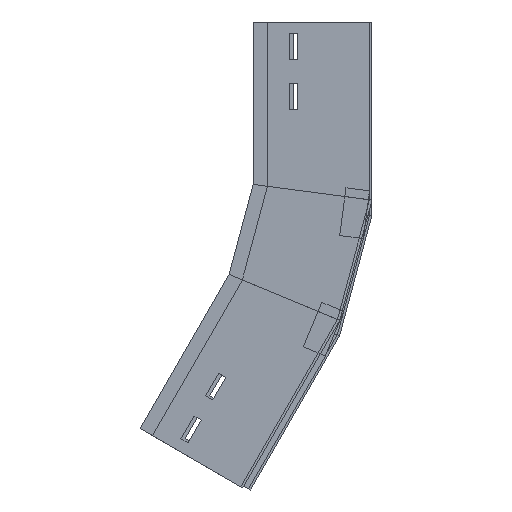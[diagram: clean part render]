
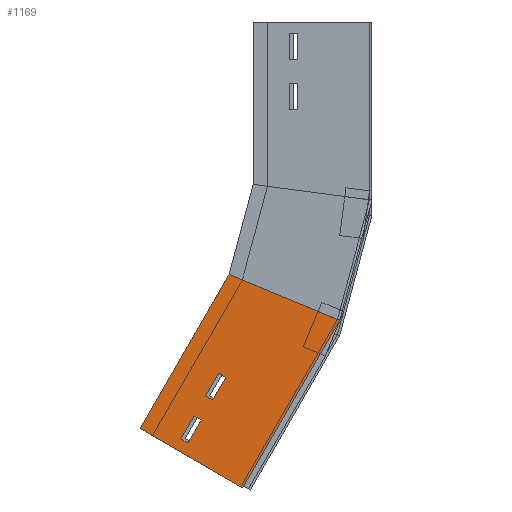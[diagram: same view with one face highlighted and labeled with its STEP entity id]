
A CAD part, left-side view. The second image highlights one B-rep face of the part: STEP entity #1169.
In plain terms, the highlighted planar face has unit normal (-1, 0, 0) as drawn and (1, 0, 0) by its records, which use the part's own axes.
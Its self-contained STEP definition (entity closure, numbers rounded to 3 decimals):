
#3 = EDGE_CURVE ( 'NONE', #1279, #262, #1346, .T. ) ;
#12 = CARTESIAN_POINT ( 'NONE',  ( 0., 59., -51.505 ) ) ;
#16 = EDGE_CURVE ( 'NONE', #1105, #1137, #1451, .T. ) ;
#32 = DIRECTION ( 'NONE',  ( 0., -0.991, -0.131 ) ) ;
#60 = EDGE_LOOP ( 'NONE', ( #123, #658, #385, #1473 ) ) ;
#74 = VERTEX_POINT ( 'NONE', #455 ) ;
#89 = VECTOR ( 'NONE', #1050, 1000. ) ;
#97 = ORIENTED_EDGE ( 'NONE', *, *, #1175, .T. ) ;
#123 = ORIENTED_EDGE ( 'NONE', *, *, #3, .T. ) ;
#164 = VERTEX_POINT ( 'NONE', #1460 ) ;
#170 = EDGE_CURVE ( 'NONE', #204, #1105, #448, .T. ) ;
#178 = CARTESIAN_POINT ( 'NONE',  ( 0., 66., -73.505 ) ) ;
#179 = LINE ( 'NONE', #1007, #463 ) ;
#185 = CARTESIAN_POINT ( 'NONE',  ( 0., 59., -9.835 ) ) ;
#191 = CARTESIAN_POINT ( 'NONE',  ( 0., 0., 0. ) ) ;
#199 = EDGE_CURVE ( 'NONE', #302, #496, #745, .T. ) ;
#204 = VERTEX_POINT ( 'NONE', #269 ) ;
#206 = EDGE_CURVE ( 'NONE', #262, #302, #1088, .T. ) ;
#214 = DIRECTION ( 'NONE',  ( 0., 0., -1. ) ) ;
#262 = VERTEX_POINT ( 'NONE', #528 ) ;
#269 = CARTESIAN_POINT ( 'NONE',  ( 0., 66., -9.835 ) ) ;
#284 = DIRECTION ( 'NONE',  ( -1., 0., 0. ) ) ;
#290 = DIRECTION ( 'NONE',  ( 0., 1., 0. ) ) ;
#297 = CARTESIAN_POINT ( 'NONE',  ( 0., 21.094, -160.223 ) ) ;
#301 = LINE ( 'NONE', #974, #612 ) ;
#302 = VERTEX_POINT ( 'NONE', #432 ) ;
#319 = DIRECTION ( 'NONE',  ( 0., 1., 0. ) ) ;
#329 = ORIENTED_EDGE ( 'NONE', *, *, #785, .T. ) ;
#368 = VECTOR ( 'NONE', #214, 1000. ) ;
#385 = ORIENTED_EDGE ( 'NONE', *, *, #199, .T. ) ;
#394 = CARTESIAN_POINT ( 'NONE',  ( 0., 59., -51.505 ) ) ;
#414 = CARTESIAN_POINT ( 'NONE',  ( 0., 66., -51.505 ) ) ;
#432 = CARTESIAN_POINT ( 'NONE',  ( 0., 66., -73.505 ) ) ;
#448 = LINE ( 'NONE', #909, #368 ) ;
#455 = CARTESIAN_POINT ( 'NONE',  ( 0., 100., 0. ) ) ;
#463 = VECTOR ( 'NONE', #879, 1000. ) ;
#484 = CARTESIAN_POINT ( 'NONE',  ( 0., 66., -9.835 ) ) ;
#493 = CARTESIAN_POINT ( 'NONE',  ( 0., 59., -31.835 ) ) ;
#496 = VERTEX_POINT ( 'NONE', #961 ) ;
#528 = CARTESIAN_POINT ( 'NONE',  ( 0., 66., -51.505 ) ) ;
#538 = CARTESIAN_POINT ( 'NONE',  ( 0., 66., -51.505 ) ) ;
#542 = ORIENTED_EDGE ( 'NONE', *, *, #1461, .T. ) ;
#612 = VECTOR ( 'NONE', #290, 1000. ) ;
#634 = ORIENTED_EDGE ( 'NONE', *, *, #16, .T. ) ;
#641 = PLANE ( 'NONE',  #1454 ) ;
#658 = ORIENTED_EDGE ( 'NONE', *, *, #206, .T. ) ;
#674 = CARTESIAN_POINT ( 'NONE',  ( 0., 0., 0. ) ) ;
#693 = LINE ( 'NONE', #484, #89 ) ;
#708 = VECTOR ( 'NONE', #319, 1000. ) ;
#710 = ORIENTED_EDGE ( 'NONE', *, *, #900, .F. ) ;
#745 = LINE ( 'NONE', #178, #899 ) ;
#768 = FACE_BOUND ( 'NONE', #60, .T. ) ;
#776 = DIRECTION ( 'NONE',  ( 0., -1., 0. ) ) ;
#777 = VECTOR ( 'NONE', #1151, 1000. ) ;
#783 = EDGE_LOOP ( 'NONE', ( #710, #1282, #329, #1147 ) ) ;
#785 = EDGE_CURVE ( 'NONE', #1375, #164, #179, .T. ) ;
#839 = CARTESIAN_POINT ( 'NONE',  ( 0., 59., -9.835 ) ) ;
#846 = DIRECTION ( 'NONE',  ( 0., 0., 1. ) ) ;
#862 = FACE_OUTER_BOUND ( 'NONE', #783, .T. ) ;
#871 = DIRECTION ( 'NONE',  ( 0., 0., -1. ) ) ;
#872 = LINE ( 'NONE', #297, #1011 ) ;
#879 = DIRECTION ( 'NONE',  ( 0., 0., -1. ) ) ;
#899 = VECTOR ( 'NONE', #1408, 1000. ) ;
#900 = EDGE_CURVE ( 'NONE', #74, #1265, #1048, .T. ) ;
#909 = CARTESIAN_POINT ( 'NONE',  ( 0., 66., -9.835 ) ) ;
#923 = VECTOR ( 'NONE', #846, 1000. ) ;
#927 = EDGE_CURVE ( 'NONE', #1375, #74, #301, .T. ) ;
#928 = CARTESIAN_POINT ( 'NONE',  ( 0., 100., -149.835 ) ) ;
#961 = CARTESIAN_POINT ( 'NONE',  ( 0., 59., -73.505 ) ) ;
#964 = LINE ( 'NONE', #394, #923 ) ;
#974 = CARTESIAN_POINT ( 'NONE',  ( 0., 0., 0. ) ) ;
#984 = VERTEX_POINT ( 'NONE', #839 ) ;
#1007 = CARTESIAN_POINT ( 'NONE',  ( 0., 0., 0. ) ) ;
#1011 = VECTOR ( 'NONE', #32, 1000. ) ;
#1044 = EDGE_LOOP ( 'NONE', ( #542, #1302, #634, #97 ) ) ;
#1048 = LINE ( 'NONE', #1477, #777 ) ;
#1050 = DIRECTION ( 'NONE',  ( 0., 1., 0. ) ) ;
#1087 = DIRECTION ( 'NONE',  ( 0., 0., 1. ) ) ;
#1088 = LINE ( 'NONE', #414, #1391 ) ;
#1094 = CARTESIAN_POINT ( 'NONE',  ( 0., 66., -31.835 ) ) ;
#1105 = VERTEX_POINT ( 'NONE', #1094 ) ;
#1137 = VERTEX_POINT ( 'NONE', #493 ) ;
#1147 = ORIENTED_EDGE ( 'NONE', *, *, #1293, .F. ) ;
#1151 = DIRECTION ( 'NONE',  ( 0., 0., -1. ) ) ;
#1169 = ADVANCED_FACE ( 'NONE', ( #768, #862, #1308 ), #641, .F. ) ;
#1175 = EDGE_CURVE ( 'NONE', #1137, #984, #1297, .T. ) ;
#1198 = DIRECTION ( 'NONE',  ( 0., 0., 1. ) ) ;
#1228 = CARTESIAN_POINT ( 'NONE',  ( 0., 66., -31.835 ) ) ;
#1265 = VERTEX_POINT ( 'NONE', #928 ) ;
#1271 = VECTOR ( 'NONE', #776, 1000. ) ;
#1279 = VERTEX_POINT ( 'NONE', #12 ) ;
#1282 = ORIENTED_EDGE ( 'NONE', *, *, #927, .F. ) ;
#1293 = EDGE_CURVE ( 'NONE', #1265, #164, #872, .T. ) ;
#1297 = LINE ( 'NONE', #185, #1390 ) ;
#1302 = ORIENTED_EDGE ( 'NONE', *, *, #170, .T. ) ;
#1308 = FACE_BOUND ( 'NONE', #1044, .T. ) ;
#1346 = LINE ( 'NONE', #538, #708 ) ;
#1349 = EDGE_CURVE ( 'NONE', #496, #1279, #964, .T. ) ;
#1375 = VERTEX_POINT ( 'NONE', #674 ) ;
#1390 = VECTOR ( 'NONE', #1198, 1000. ) ;
#1391 = VECTOR ( 'NONE', #871, 1000. ) ;
#1408 = DIRECTION ( 'NONE',  ( 0., -1., 0. ) ) ;
#1451 = LINE ( 'NONE', #1228, #1271 ) ;
#1454 = AXIS2_PLACEMENT_3D ( 'NONE', #191, #284, #1087 ) ;
#1460 = CARTESIAN_POINT ( 'NONE',  ( 0., 0., -163. ) ) ;
#1461 = EDGE_CURVE ( 'NONE', #984, #204, #693, .T. ) ;
#1473 = ORIENTED_EDGE ( 'NONE', *, *, #1349, .T. ) ;
#1477 = CARTESIAN_POINT ( 'NONE',  ( 0., 100., 0. ) ) ;
